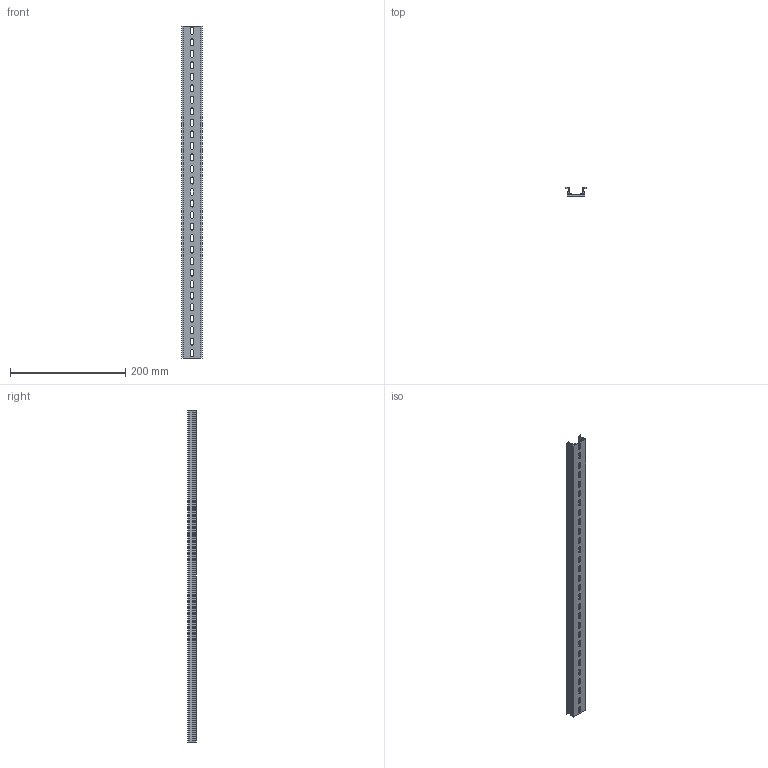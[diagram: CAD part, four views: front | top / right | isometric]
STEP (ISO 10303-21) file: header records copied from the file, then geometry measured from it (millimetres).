
FILE_DESCRIPTION(/* description */ (''),/* implementation_level */ '2;1');
FILE_NAME(/* name */ '22648-(TKB KD-29)HP 3D.stp',/* time_stamp */ '2024-12-05T14:09:32+09:00',/* author */ ('usercadg104'),/* organization */ (''),/* preprocessor_version */ 'ST-DEVELOPER v19.2',/* originating_system */ 'Autodesk Inventor 2023',/* authorisation */ '');
FILE_SCHEMA (('CONFIG_CONTROL_DESIGN'));
Length unit declared in the file: millimetre
Products named in the file (1): TKB KD-3(林)
Bounding box: 35 x 15 x 577 mm (x, y, z)
Volume: 67503.6 mm3; surface area: 78017.3 mm2
Topology: 1 solids, 1 shells, 156 faces, 462 edges, 308 vertices
Faces by surface type: plane 94, cylinder 62
Entity records: 5389 total; most frequent: CARTESIAN_POINT 927, ORIENTED_EDGE 924, DIRECTION 900, EDGE_CURVE 462, LINE 338, VECTOR 338, VERTEX_POINT 308, AXIS2_PLACEMENT_3D 281
